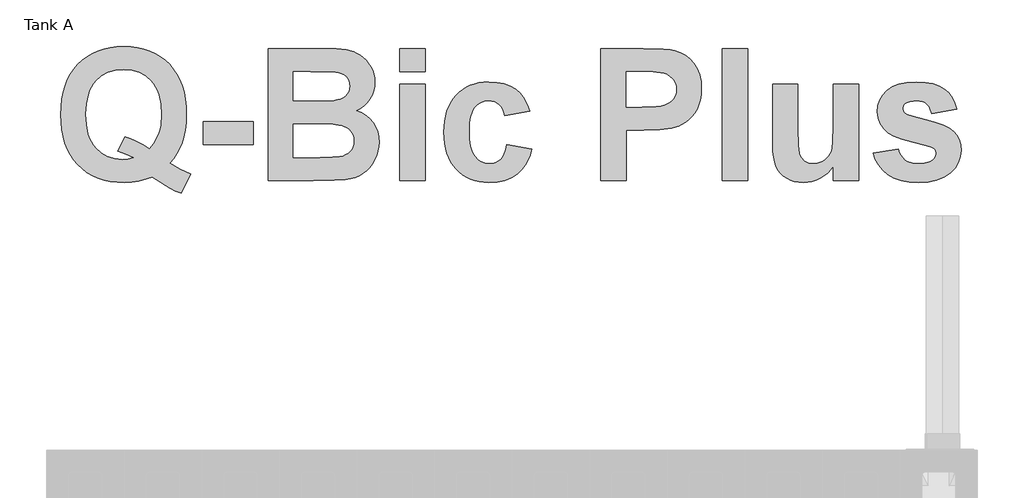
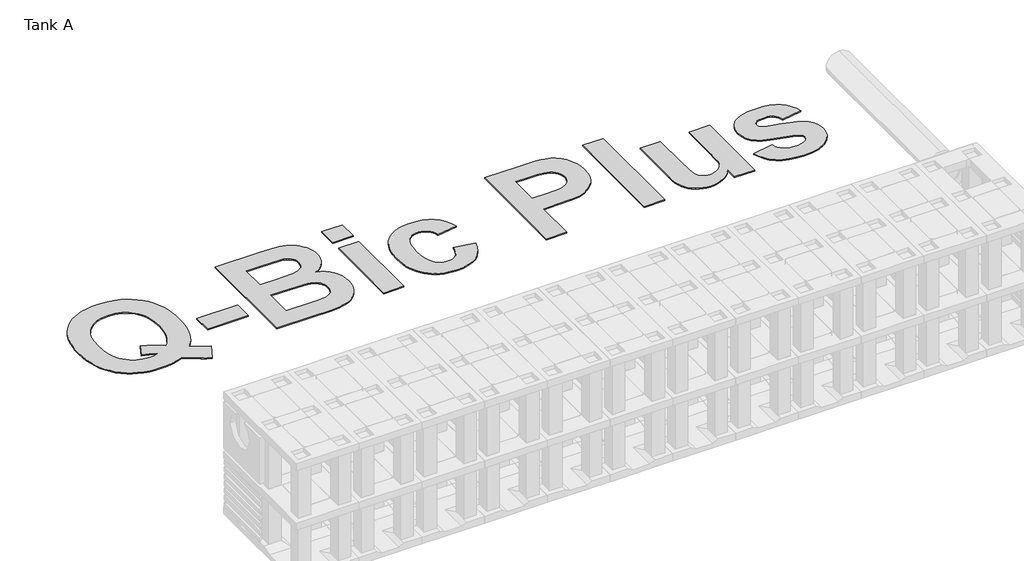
# One storey, part 6 of 6: 1 proxy.
"""IFC4 building model written with IfcOpenShell, lengths in millimetres."""

from ifc_helpers import new_model, si_unit, frame, origin, place, context, project, spatial, polyline, outline, extrude, element, save

model = new_model("IFC4")

# Units and contexts
model_context = context("Model", 3, world=origin())
ifc_project = project(units=[si_unit("LENGTHUNIT", "METRE", prefix="MILLI")], contexts=[model_context])

# Site, building, storey
site = spatial("IfcSite", under=ifc_project)
building = spatial("IfcBuilding", under=site)
storey = spatial("IfcBuildingStorey", under=building, Name="Tank A", Elevation=-2300.0)

# Proxy
placement = place(None, origin())
element("IfcBuildingElementProxy", 1, Name="Arial", ObjectType="Arial", at=placement, inside=storey, context=model_context, shape_type="SweptSolid", body=[
    extrude(outline(polyline([(3439.7532774, 12183.2447891), (3516.8041175, 12134.8507886), (3600.1809707, 12097.4640509), (3526.2931372, 11951.712708), (3481.441704, 11967.4012206), (3437.4759127, 11988.1505438), (3304.1235556, 12075.9556062), (3253.8317511, 12057.0250119), (3200.8830211, 12043.5031588), (3145.2773655, 12035.3900469), (3087.0147845, 12032.6856763), (3031.0097993, 12034.8444283), (2978.1282832, 12041.3206842), (2928.3702361, 12052.1144442), (2881.7356579, 12067.2257081), (2838.2245488, 12086.6544759), (2797.8369086, 12110.4007478), (2760.5727374, 12138.4645236), (2726.4320352, 12170.8458034), (2695.889253, 12207.1333963), (2669.4188418, 12246.9161114), (2647.0208015, 12290.1939489), (2628.6951321, 12336.9669085), (2614.4418338, 12387.2349905), (2604.2609064, 12440.9981947), (2598.1523499, 12498.2565212), (2596.1161644, 12559.0099699), (2598.168165, 12619.5914302), (2604.3241665, 12676.713352), (2614.5841691, 12730.3757354), (2628.9481727, 12780.5785803), (2647.4161773, 12827.3218868), (2669.9881829, 12870.6056549), (2696.6641896, 12910.4298845), (2727.4441973, 12946.7945757), (2761.7390961, 12979.264815), (2798.9597759, 13007.4056891), (2839.1062368, 13031.217198), (2882.1784788, 13050.6993416), (2928.1765019, 13065.8521199), (2977.1003061, 13076.6755331), (3028.9498913, 13083.1695809), (3083.7252576, 13085.3342635), (3138.0143117, 13083.1794653), (3189.4171222, 13076.7150706), (3237.9336893, 13065.9410795), (3283.5640129, 13050.8574919), (3326.3080929, 13031.4643079), (3366.1659295, 13007.7615274), (3403.1375226, 12979.7491504), (3437.2228721, 12947.427177), (3467.8249607, 12911.2265668), (3494.3467708, 12871.5782794), (3516.7883025, 12828.4823148), (3535.1495556, 12781.9386731), (3549.4305303, 12731.9473543), (3559.6312265, 12678.5083582), (3565.7516442, 12621.621685), (3567.7917834, 12561.2873347), (3565.4511586, 12497.6160124), (3558.429284, 12437.9300783), (3546.7261597, 12382.2295326), (3530.3417856, 12330.5143751), (3514.0523018, 12292.7480767), (3493.5243891, 12255.6143795), (3468.7580477, 12219.1132837), (3439.7532774, 12183.2447891)]), holes=[polyline([(3278.5664625, 12294.3295799), (3300.8577513, 12318.7005456), (3320.1599989, 12345.5070263), (3336.4732053, 12374.7490221), (3349.7973705, 12406.4265329), (3360.1483095, 12440.5395588), (3367.5418374, 12477.0880997), (3373.4566596, 12557.4917268), (3368.4274792, 12639.8643254), (3353.3399378, 12711.118956), (3342.0242818, 12742.5770332), (3328.1940356, 12771.2556184), (3311.8491991, 12797.1547116), (3292.9897724, 12820.2743128), (3249.6407674, 12858.3015593), (3200.0606394, 12885.4638782), (3144.2493884, 12901.7612696), (3082.2070145, 12907.1937334), (3020.2516232, 12901.8008072), (2964.4482798, 12885.6220286), (2914.7969841, 12858.6573975), (2871.2977362, 12820.9069141), (2852.34935, 12797.9751165), (2835.9274152, 12772.3231332), (2822.031932, 12743.9509642), (2810.6629002, 12712.8586096), (2795.5041912, 12642.5133434), (2790.4512882, 12561.2873347), (2795.4330236, 12478.8910134), (2810.3782296, 12407.5652152), (2821.5871342, 12376.0537623), (2835.2869064, 12347.30994), (2851.4775463, 12321.3337486), (2870.1590539, 12298.1251878), (2912.6382321, 12259.9318835), (2960.3680013, 12232.6509518), (3013.3483614, 12216.2823928), (3071.5793124, 12210.8262064), (3115.671624, 12214.1157333), (3157.3600506, 12223.9843138), (3095.8712029, 12253.463535), (3033.370193, 12275.604581), (3089.5451897, 12388.9667366), (3138.4610864, 12371.1906397), (3186.2699307, 12349.4924146), (3232.9717227, 12323.8720613), (3278.5664625, 12294.3295799)])]), frame((0.0, 0.0, -2300.0), z_axis=(0.0, 0.0, 1.0), x_axis=(1.0, 0.0, 0.0)), (0.0, 0.0, 1.0), 10.0),
    extrude(outline(polyline([(3697.3485327, 12324.188362), (3697.3485327, 12502.3288921), (4086.0187803, 12502.3288921), (4086.0187803, 12324.188362), (3697.3485327, 12324.188362)])), frame((0.0, 0.0, -2300.0), z_axis=(0.0, 0.0, 1.0), x_axis=(1.0, 0.0, 0.0)), (0.0, 0.0, 1.0), 10.0),
    extrude(outline(polyline([(4199.3809358, 13069.1396699), (4618.163006, 13069.1396699), (4726.6225013, 13066.6092646), (4803.5151911, 13059.0180489), (4861.3982114, 13043.3611663), (4887.9200215, 13031.3812789), (4912.8286982, 13016.6337608), (4935.9265537, 12999.1739645), (4957.0159001, 12979.0572427), (4976.0967372, 12956.2835954), (4993.1690652, 12930.8530226), (5007.2286294, 12903.2795128), (5017.2711753, 12874.0770546), (5023.2967028, 12843.245648), (5025.305212, 12810.7852931), (5022.9092345, 12775.5810299), (5015.721302, 12741.8317498), (5003.7414147, 12709.5374527), (4986.9695723, 12678.6981386), (4966.0858214, 12650.468305), (4941.7702084, 12626.0024491), (4914.0227332, 12605.3005711), (4882.8433959, 12588.3626709), (4922.5391284, 12572.4527479), (4957.3638308, 12551.7983149), (4987.317503, 12526.3993722), (5012.4001451, 12496.2559195), (5032.2163813, 12462.301044), (5046.3708357, 12425.4678324), (5054.8635084, 12385.7562849), (5057.6943993, 12343.1664014), (5055.6621675, 12308.7449824), (5049.5654724, 12274.8138294), (5039.4043138, 12241.3729424), (5025.1786917, 12208.4223214), (5007.4342248, 12177.3615969), (4986.7165318, 12149.5903992), (4963.0256126, 12125.1087283), (4936.3614671, 12103.9165843), (4906.5738528, 12086.2432851), (4873.5125266, 12072.3181486), (4837.1774886, 12062.141175), (4797.5687388, 12055.7123641), (4709.3841155, 12051.2208948), (4548.0707803, 12048.8802699), (4199.3809358, 12048.8802699), (4199.3809358, 13069.1396699)]), holes=[polyline([(4393.7160596, 12890.9991397), (4393.7160596, 12664.2748286), (4541.9978077, 12664.2748286), (4706.4741495, 12667.5643555), (4733.905324, 12672.0400098), (4758.2525671, 12679.3940001), (4779.5158787, 12689.6263263), (4797.695259, 12702.7369886), (4812.2529968, 12718.4413162), (4822.6513809, 12736.4546386), (4828.8904113, 12756.7769559), (4830.9700882, 12779.4082679), (4829.1750819, 12801.0036952), (4823.7900632, 12820.4957232), (4814.8150321, 12837.8843519), (4802.2499885, 12853.1695811), (4786.1581925, 12866.0034803), (4766.6029044, 12876.0381187), (4743.5841241, 12883.2734962), (4717.1018516, 12887.7096129), (4523.7788899, 12890.9991397), (4393.7160596, 12890.9991397)]), polyline([(4393.7160596, 12486.1342985), (4393.7160596, 12227.0208001), (4599.1849665, 12227.0208001), (4697.3646905, 12228.5390432), (4751.5153631, 12233.0937727), (4775.1588372, 12238.4471613), (4796.4933165, 12246.6630709), (4815.5188011, 12257.7415014), (4832.2352908, 12271.6824529), (4845.8520341, 12288.359405), (4855.5782793, 12307.6458376), (4861.4140264, 12329.5417506), (4863.3592755, 12354.047144), (4861.8568473, 12374.9862475), (4857.349563, 12394.2805876), (4849.8374224, 12411.9301643), (4839.3204255, 12427.9349776), (4825.9725378, 12442.089432), (4809.9677245, 12454.1879321), (4769.9873214, 12472.2170696), (4740.6978806, 12478.3058572), (4698.1238121, 12482.6549913), (4573.1217924, 12486.1342985), (4393.7160596, 12486.1342985)])]), frame((0.0, 0.0, -2300.0), z_axis=(0.0, 0.0, 1.0), x_axis=(1.0, 0.0, 0.0)), (0.0, 0.0, 1.0), 10.0),
    extrude(outline(polyline([(5219.6403358, 12048.8802699), (5219.6403358, 12793.8315778), (5413.9754596, 12793.8315778), (5413.9754596, 12048.8802699), (5219.6403358, 12048.8802699)])), frame((0.0, 0.0, -2300.0), z_axis=(0.0, 0.0, 1.0), x_axis=(1.0, 0.0, 0.0)), (0.0, 0.0, 1.0), 10.0),
    extrude(outline(polyline([(5219.6403358, 12890.9991397), (5219.6403358, 13069.1396699), (5413.9754596, 13069.1396699), (5413.9754596, 12890.9991397), (5219.6403358, 12890.9991397)])), frame((0.0, 0.0, -2300.0), z_axis=(0.0, 0.0, 1.0), x_axis=(1.0, 0.0, 0.0)), (0.0, 0.0, 1.0), 10.0),
    extrude(outline(polyline([(6223.7051421, 12583.3018604), (6029.3700183, 12550.9126731), (6023.3682133, 12577.3791306), (6014.4722573, 12600.3504658), (6002.6821503, 12619.8266788), (5987.9978923, 12635.8077695), (5970.6567088, 12648.2621079), (5950.8958252, 12657.1580639), (5928.7152416, 12662.4956374), (5904.114958, 12664.2748286), (5871.5676204, 12660.9378567), (5842.49959, 12650.9269409), (5816.9108668, 12634.2420812), (5794.8014509, 12610.8832777), (5776.9779088, 12579.7118479), (5764.2468074, 12539.5891096), (5756.6081465, 12490.5150626), (5754.0619262, 12432.489707), (5756.7109442, 12368.0118181), (5764.6579982, 12313.7504403), (5777.9030883, 12269.7055738), (5796.4462143, 12235.8772185), (5819.4491796, 12210.7471313), (5846.0737874, 12192.797069), (5876.3200377, 12182.0270316), (5910.1879306, 12178.4370191), (5935.6738561, 12180.4850659), (5958.7400815, 12186.6292062), (5979.3866069, 12196.8694399), (5997.6134323, 12211.2057672), (6013.3731125, 12230.5554599), (6026.6182025, 12255.83579), (6037.3487023, 12287.0467573), (6045.5646119, 12324.188362), (6239.8997357, 12291.7991747), (6221.989211, 12231.5834371), (6197.3572973, 12179.2277708), (6166.0039947, 12134.7321758), (6127.9293031, 12098.0966522), (6082.9750721, 12069.4793502), (6030.9831516, 12049.0384203), (5971.9535415, 12036.7738623), (5905.8862417, 12032.6856763), (5867.3509372, 12034.2948559), (5830.8201882, 12039.1223947), (5796.2939946, 12047.1682926), (5763.7723564, 12058.4325498), (5733.2552736, 12072.9151661), (5704.7427462, 12090.6161417), (5678.2347743, 12111.5354764), (5653.7313577, 12135.6731703), (5631.6990401, 12162.6536163), (5612.6043648, 12192.1012075), (5596.4473318, 12224.0159438), (5583.2279412, 12258.3978253), (5572.946193, 12295.2468519), (5565.6020871, 12334.5630235), (5559.7268024, 12420.5968023), (5565.5625495, 12507.6032056), (5572.8572334, 12547.2811462), (5583.0697909, 12584.4089127), (5596.2002219, 12618.9865052), (5612.2485265, 12651.0139236), (5631.2147047, 12680.491168), (5653.0987564, 12707.4182383), (5677.4736758, 12731.4669726), (5703.912457, 12752.3092091), (5732.4151, 12769.9449476), (5762.9816047, 12784.3741882), (5795.6119713, 12795.5969309), (5830.3061996, 12803.6131757), (5867.0642898, 12808.4229225), (5905.8862417, 12810.0261715), (5967.7072051, 12806.5231417), (6022.8542247, 12796.0140524), (6071.3273004, 12778.4989035), (6113.1264323, 12753.977695), (6148.8842216, 12722.2922767), (6179.2332697, 12683.2844981), (6204.1735765, 12636.9543594), (6223.7051421, 12583.3018604)])), frame((0.0, 0.0, -2300.0), z_axis=(0.0, 0.0, 1.0), x_axis=(1.0, 0.0, 0.0)), (0.0, 0.0, 1.0), 10.0),
    extrude(outline(polyline([(6774.3213262, 12048.8802699), (6774.3213262, 13069.1396699), (7103.0209692, 13069.1396699), (7257.43895, 13065.344062), (7310.2137147, 13060.5995522), (7346.6989955, 13053.9572384), (7388.569295, 13039.2097202), (7426.8812121, 13017.7408131), (7461.6347468, 12989.550517), (7492.8298991, 12954.638832), (7518.5688651, 12913.5909142), (7536.9538408, 12866.9919199), (7547.9848262, 12814.841849), (7551.6618214, 12757.1407016), (7549.5030694, 12712.312991), (7543.0268134, 12671.201813), (7532.2330535, 12633.8071678), (7517.1217896, 12600.1290554), (7498.6814613, 12570.0172328), (7477.9005081, 12543.3214573), (7454.7789301, 12520.0417289), (7429.3167272, 12500.1780477), (7375.6405056, 12469.9713349), (7321.1419024, 12451.9738275), (7229.7310124, 12441.156345), (7104.7922528, 12437.5505175), (6968.65645, 12437.5505175), (6968.65645, 12048.8802699), (6774.3213262, 12048.8802699)]), holes=[polyline([(6968.65645, 12890.9991397), (6968.65645, 12615.6910477), (7089.3567808, 12615.6910477), (7198.0693167, 12619.4866556), (7236.2230834, 12624.2311654), (7263.5751828, 12630.8734792), (7302.7332041, 12650.3892298), (7318.7538324, 12663.3970943), (7332.4022058, 12678.5716184), (7343.3066709, 12695.485796), (7351.0955746, 12713.7126214), (7355.7689168, 12733.2520945), (7357.3266976, 12754.1042153), (7355.1363155, 12779.3924528), (7348.5651694, 12802.3716956), (7337.6132591, 12823.0419435), (7322.2805848, 12841.4031967), (7303.6109385, 12856.9968191), (7282.6481124, 12869.3641748), (7259.3921066, 12878.5052638), (7233.842921, 12884.4200861), (7174.4416576, 12889.3543763), (7075.1865113, 12890.9991397), (6968.65645, 12890.9991397)])]), frame((0.0, 0.0, -2300.0), z_axis=(0.0, 0.0, 1.0), x_axis=(1.0, 0.0, 0.0)), (0.0, 0.0, 1.0), 10.0),
    extrude(outline(polyline([(7713.6077579, 12048.8802699), (7713.6077579, 13069.1396699), (7907.9428817, 13069.1396699), (7907.9428817, 12048.8802699), (7713.6077579, 12048.8802699)])), frame((0.0, 0.0, -2300.0), z_axis=(0.0, 0.0, 1.0), x_axis=(1.0, 0.0, 0.0)), (0.0, 0.0, 1.0), 10.0),
    extrude(outline(polyline([(8571.9212213, 12048.8802699), (8571.9212213, 12158.1937771), (8551.0532855, 12130.5253771), (8527.1646783, 12105.9725386), (8500.2553999, 12084.5352615), (8470.3254502, 12066.213546), (8438.4344365, 12051.545103), (8405.6419658, 12041.0676437), (8371.9480383, 12034.7811681), (8337.3526539, 12032.6856763), (8302.7019169, 12034.7416306), (8269.8540937, 12040.9094934), (8238.8091842, 12051.1892647), (8209.5671884, 12065.5809446), (8183.1877136, 12083.6970648), (8160.7303669, 12105.1501569), (8142.1951484, 12129.9402209), (8127.5820581, 12158.0672568), (8116.5115351, 12190.7173922), (8108.6040186, 12229.0767544), (8103.8595088, 12273.1453434), (8102.2780055, 12322.9231594), (8102.2780055, 12793.8315778), (8296.6131293, 12793.8315778), (8296.6131293, 12449.4434223), (8299.2384247, 12321.9426273), (8307.1143111, 12255.7408998), (8321.980442, 12223.8577935), (8345.576471, 12199.3128625), (8377.3014269, 12183.65598), (8416.5543385, 12178.4370191), (8440.4587607, 12180.1766728), (8463.0821652, 12185.3956336), (8484.424552, 12194.0939017), (8504.4859212, 12206.271477), (8522.3727234, 12221.0348102), (8537.1914092, 12237.4903518), (8548.9419786, 12255.6381021), (8557.6244316, 12275.4780608), (8563.8792771, 12303.6367268), (8568.3470239, 12346.7405989), (8571.9212213, 12477.7839611), (8571.9212213, 12793.8315778), (8766.2563451, 12793.8315778), (8766.2563451, 12048.8802699), (8571.9212213, 12048.8802699)])), frame((0.0, 0.0, -2300.0), z_axis=(0.0, 0.0, 1.0), x_axis=(1.0, 0.0, 0.0)), (0.0, 0.0, 1.0), 10.0),
    extrude(outline(polyline([(8879.6185007, 12259.4099874), (9073.9536245, 12291.7991747), (9081.6160079, 12265.6411103), (9092.4572129, 12242.835833), (9106.4772396, 12223.3833425), (9123.6760878, 12207.2836391), (9144.3226132, 12194.6632429), (9168.6856713, 12185.6486741), (9196.7652622, 12180.2399329), (9228.5613857, 12178.4370191), (9263.338643, 12180.1608577), (9293.5295407, 12185.3323735), (9319.1340789, 12193.9515664), (9340.1522576, 12206.0184365), (9351.2227806, 12216.4563581), (9359.130297, 12228.5390432), (9363.8748069, 12242.2664918), (9365.4563102, 12257.6387037), (9362.1035232, 12277.7554255), (9352.0451623, 12294.0765394), (9329.0817346, 12307.4244272), (9288.5319904, 12319.6336325), (9184.1685885, 12345.0325753), (9100.8391804, 12369.3560958), (9038.5437659, 12392.6041942), (8997.2823452, 12414.7768702), (8959.9746827, 12447.8144739), (8933.3263523, 12486.7036397), (8917.3373541, 12531.4443676), (8912.007688, 12582.0366578), (8916.5782325, 12628.327259), (8930.289866, 12670.7906222), (8953.1425885, 12709.4267475), (8985.1363999, 12744.2356348), (9026.7457514, 12773.0189946), (9078.4450938, 12793.5785373), (9140.2344272, 12805.914263), (9212.1137516, 12810.0261715), (9280.5453988, 12806.7050146), (9339.5829164, 12796.7415439), (9389.2263046, 12780.1357594), (9429.4755632, 12756.8876611), (9462.2601263, 12727.1237692), (9489.509428, 12690.9706041), (9511.2234681, 12648.4281657), (9527.4022467, 12599.496454), (9333.0671229, 12567.1072667), (9318.7703332, 12608.6691731), (9308.3007814, 12625.3224027), (9295.6171251, 12639.2238166), (9280.3714334, 12650.1836344), (9262.2157757, 12658.0120756), (9241.1501519, 12662.7091404), (9217.1745621, 12664.2748286), (9161.8219471, 12658.9609776), (9141.0251789, 12652.3186638), (9124.8147702, 12643.0194245), (9110.9608014, 12625.5596282), (9106.3428118, 12603.5451025), (9110.9608014, 12584.5038029), (9124.8147702, 12568.3724694), (9144.8603243, 12557.7605823), (9180.1990153, 12545.1560011), (9296.7558074, 12513.9687563), (9364.7683563, 12495.3544627), (9421.662937, 12474.6842147), (9467.4395496, 12451.9580125), (9502.0981941, 12427.175856), (9527.3389866, 12398.4083112), (9545.368124, 12364.4850657), (9556.1856065, 12325.4061195), (9559.791434, 12281.1714726), (9554.5645656, 12231.9788129), (9538.8839605, 12186.3761656), (9512.7496187, 12144.3635308), (9476.1615402, 12105.9409085), (9453.9987485, 12088.7717135), (9429.3253204, 12073.8917444), (9372.4465547, 12050.9994843), (9305.5252432, 12037.2641283), (9228.5613857, 12032.6856763), (9158.0500617, 12036.4970992), (9095.3039188, 12047.931368), (9040.3229571, 12066.9884826), (8993.1071765, 12093.668443), (8953.5142417, 12126.895827), (8921.4018175, 12165.5952125), (8896.7699038, 12209.7665992), (8879.6185007, 12259.4099874)])), frame((0.0, 0.0, -2300.0), z_axis=(0.0, 0.0, 1.0), x_axis=(1.0, 0.0, 0.0)), (0.0, 0.0, 1.0), 10.0),
])

save(model, "model.ifc")
